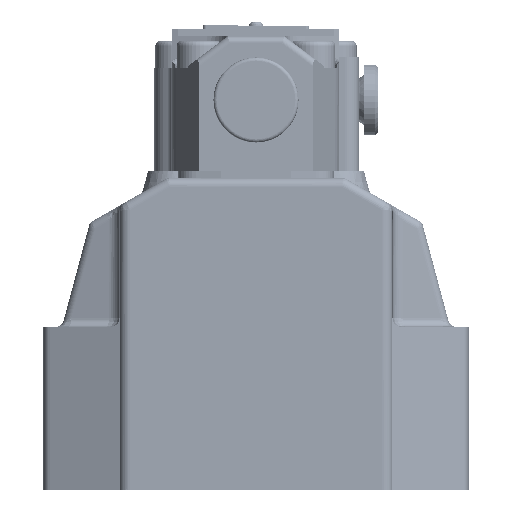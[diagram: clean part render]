
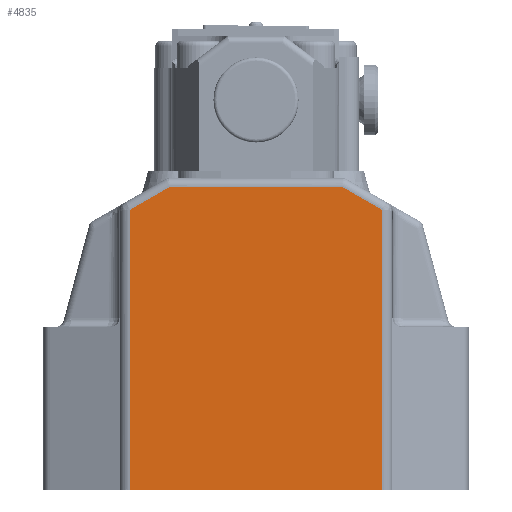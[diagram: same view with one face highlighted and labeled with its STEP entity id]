
A CAD part, left-side view. The second image highlights one B-rep face of the part: STEP entity #4835.
In plain terms, the highlighted planar face has unit normal (-1, 0, 0).
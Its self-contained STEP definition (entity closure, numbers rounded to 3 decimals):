
#2005=PLANE('',#18525);
#2624=LINE('',#24746,#3547);
#2698=LINE('',#25244,#3621);
#2699=LINE('',#25246,#3622);
#2700=LINE('',#25248,#3623);
#2701=LINE('',#25250,#3624);
#2702=LINE('',#25252,#3625);
#3547=VECTOR('',#19989,1.);
#3621=VECTOR('',#20211,1.);
#3622=VECTOR('',#20212,1.);
#3623=VECTOR('',#20213,1.);
#3624=VECTOR('',#20214,1.);
#3625=VECTOR('',#20215,1.);
#4835=ADVANCED_FACE('',(#5889),#2005,.F.);
#5889=FACE_OUTER_BOUND('',#6769,.T.);
#6769=EDGE_LOOP('',(#8675,#8676,#8677,#8678,#8679,#8680));
#8675=ORIENTED_EDGE('',*,*,#15154,.T.);
#8676=ORIENTED_EDGE('',*,*,#15155,.T.);
#8677=ORIENTED_EDGE('',*,*,#15156,.T.);
#8678=ORIENTED_EDGE('',*,*,#15157,.T.);
#8679=ORIENTED_EDGE('',*,*,#15158,.F.);
#8680=ORIENTED_EDGE('',*,*,#15006,.T.);
#13325=VERTEX_POINT('',#24745);
#13326=VERTEX_POINT('',#24747);
#13451=VERTEX_POINT('',#25245);
#13452=VERTEX_POINT('',#25247);
#13453=VERTEX_POINT('',#25249);
#13454=VERTEX_POINT('',#25251);
#15006=EDGE_CURVE('',#13326,#13325,#2624,.T.);
#15154=EDGE_CURVE('',#13325,#13451,#2698,.T.);
#15155=EDGE_CURVE('',#13451,#13452,#2699,.T.);
#15156=EDGE_CURVE('',#13452,#13453,#2700,.T.);
#15157=EDGE_CURVE('',#13453,#13454,#2701,.T.);
#15158=EDGE_CURVE('',#13326,#13454,#2702,.T.);
#18525=AXIS2_PLACEMENT_3D('',#25253,#20216,#20217);
#19989=DIRECTION('',(0.,-1.,0.));
#20211=DIRECTION('',(0.,0.,1.));
#20212=DIRECTION('',(0.,0.866,0.5));
#20213=DIRECTION('',(0.,1.,0.));
#20214=DIRECTION('',(0.,0.866,-0.5));
#20215=DIRECTION('',(0.,0.,1.));
#20216=DIRECTION('',(1.,0.,0.));
#20217=DIRECTION('',(0.,0.,1.));
#24745=CARTESIAN_POINT('',(-14.712,14.397,-20.));
#24746=CARTESIAN_POINT('',(-14.712,86.397,-20.));
#24747=CARTESIAN_POINT('',(-14.712,85.397,-20.));
#25244=CARTESIAN_POINT('',(-14.712,14.397,70.));
#25245=CARTESIAN_POINT('',(-14.712,14.397,59.051));
#25246=CARTESIAN_POINT('',(-14.712,73.138,92.965));
#25247=CARTESIAN_POINT('',(-14.712,25.567,65.5));
#25248=CARTESIAN_POINT('',(-14.712,86.397,65.5));
#25249=CARTESIAN_POINT('',(-14.712,74.227,65.5));
#25250=CARTESIAN_POINT('',(-14.712,81.406,61.355));
#25251=CARTESIAN_POINT('',(-14.712,85.397,59.051));
#25252=CARTESIAN_POINT('',(-14.712,85.397,70.));
#25253=CARTESIAN_POINT('',(-14.712,86.397,70.));
